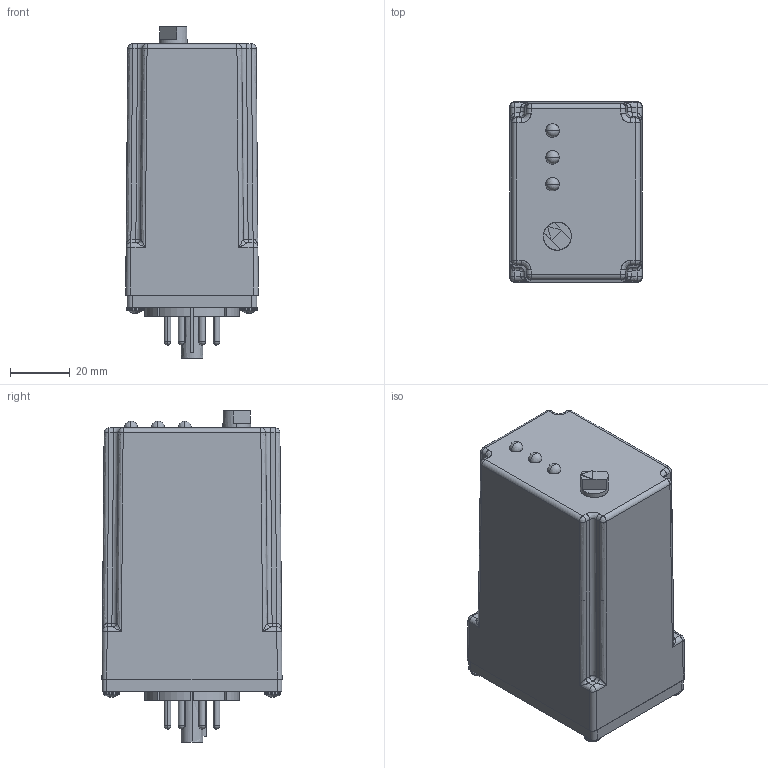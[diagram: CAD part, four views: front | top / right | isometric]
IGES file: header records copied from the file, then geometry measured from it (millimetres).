
Start section: SolidWorks IGES file using analytic representation for surfaces
Global section: file name: D:\Modeling Work\Macromatic\2019\Phase 2\ATP\ATP w-Switch\ATP w-Switch-Base.IGS; native system: SolidWorks 2019; preprocessor: SolidWorks 2019; author: mdahl; date: 190701.212756; units: millimetre
Bounding box: 44.45 x 60.33 x 111.22 mm (x, y, z)
Surface area: 31077 mm2 (no closed solid volume)
Topology: 0 solids, 0 shells, 700 faces, 8619 edges, 8561 vertices
Faces by surface type: revolution 356, bspline 344
